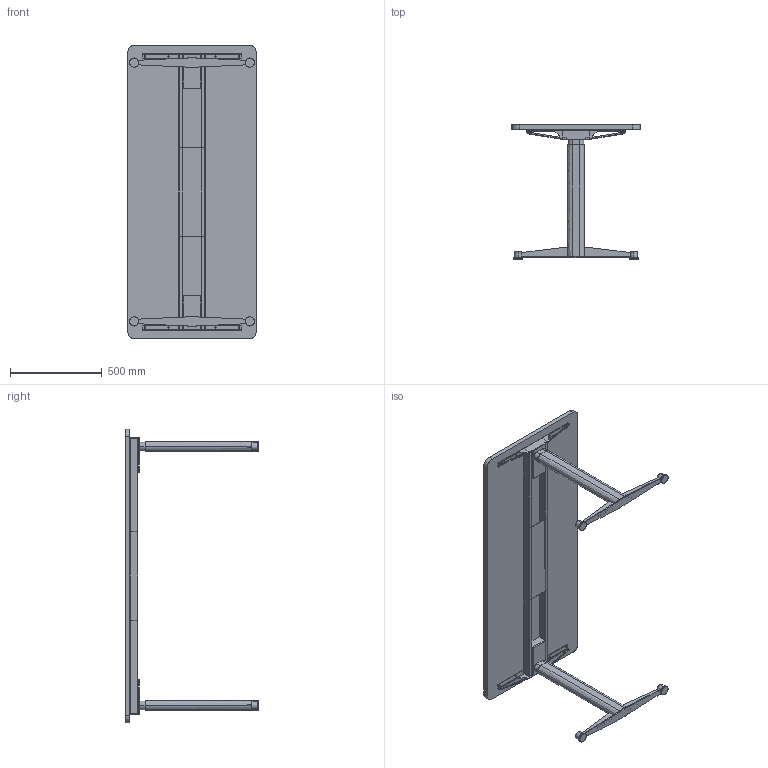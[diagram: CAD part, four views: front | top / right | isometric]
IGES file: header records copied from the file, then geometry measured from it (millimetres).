
Start section: SolidWorks IGES file using analytic representation for surfaces
Global section: file name: C:\Users\simone.cerana\OneDrive - Gruppo Tecno\Desktop\CHINA\DISEGNI DI SERIE\ASSIEMI LISTINO\AXIS LISTINO\AX1607ST.IGS; native system: SolidWorks 2024; preprocessor: SolidWorks 2024; author: simone.cerana; date: 260508.092143; units: millimetre
Bounding box: 700 x 729.39 x 1600 mm (x, y, z)
Surface area: 3473425.1 mm2 (no closed solid volume)
Topology: 0 solids, 0 shells, 290 faces, 4168 edges, 4164 vertices
Faces by surface type: bspline 162, revolution 128
